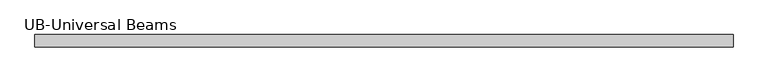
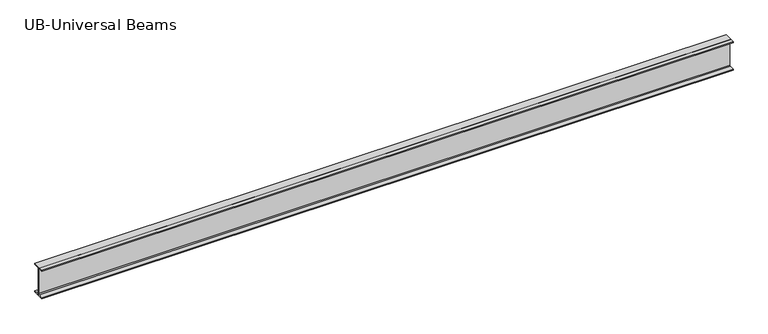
"""IFC4 building model written with IfcOpenShell, lengths in millimetres: beam geometry."""

import ifcopenshell
import ifcopenshell.guid

model = None  # the IFC model being written
_history = None  # IfcOwnerHistory: only IFC2X3 demands one
_inside = {}  # id of a spatial element -> (the spatial element, [elements in it])
_under = {}  # id of a project, library or spatial element -> (it, [spatial elements below it])
_declared = {}  # id of a project -> (the project, [libraries it declares])
_typed = {}  # id of a type object -> (the type object, [elements of that type])
_made_of = {}  # id of a material, layer set ... -> (it, [elements and type objects made of it])


def new_model(schema):
    """Start an empty IFC model of exactly this schema.

    Asked for "IFC4X3", IfcOpenShell would pick the latest addendum, in which some entities
    have other attributes; the version numbers below select the first issue.
    IFC2X3 requires an IfcOwnerHistory on every rooted entity: one is made here for all.
    """
    global model, _history
    if schema == "IFC4X3":
        model = ifcopenshell.file(schema_version=(4, 3, 0, 0))
    else:
        model = ifcopenshell.file(schema=schema)
    _inside.clear()
    _under.clear()
    _declared.clear()
    _typed.clear()
    _made_of.clear()
    _history = None
    if model.schema == "IFC2X3":
        org = make("IfcOrganization", Name="unknown")
        user = make(
            "IfcPersonAndOrganization",
            ThePerson=make("IfcPerson", FamilyName="unknown"),
            TheOrganization=org,
        )
        app = make(
            "IfcApplication",
            ApplicationDeveloper=org,
            Version="unknown",
            ApplicationFullName="unknown",
            ApplicationIdentifier="unknown",
        )
        _history = make(
            "IfcOwnerHistory",
            OwningUser=user,
            OwningApplication=app,
            ChangeAction="ADDED",
            CreationDate=0,
        )
    return model


def make(cls, **values):
    """One entity of the class cls with the attributes given. An attribute that is None is left unset."""
    return model.create_entity(
        cls, **{name: value for name, value in values.items() if value is not None}
    )


def rooted(cls, **values):
    """An entity with a GlobalId (a new one), such as an element, a storey or a relation."""
    return make(cls, GlobalId=ifcopenshell.guid.new(), OwnerHistory=_history, **values)


def si_unit(unit_type, name, prefix=None):
    """IfcSIUnit, for example si_unit("LENGTHUNIT", "METRE", prefix="MILLI")."""
    return make("IfcSIUnit", UnitType=unit_type, Prefix=prefix, Name=name)


def assignment(units):
    """IfcUnitAssignment: the units of a project."""
    return None if units is None else make("IfcUnitAssignment", Units=units)


def point(xyz):
    """IfcCartesianPoint."""
    return None if xyz is None else make("IfcCartesianPoint", Coordinates=xyz)


def direction(xyz):
    """IfcDirection."""
    return None if xyz is None else make("IfcDirection", DirectionRatios=xyz)


def frame(location, z_axis=None, x_axis=None):
    """IfcAxis2Placement3D, a coordinate frame: its origin and axes. An axis left out is left unset."""
    return make(
        "IfcAxis2Placement3D",
        Location=point(location),
        Axis=direction(z_axis),
        RefDirection=direction(x_axis),
    )


def frame_2d(location, x_axis=None):
    """IfcAxis2Placement2D, a coordinate frame in the plane: its origin and x axis."""
    return make(
        "IfcAxis2Placement2D", Location=point(location), RefDirection=direction(x_axis)
    )


def origin():
    """The frame at (0, 0, 0) with its axes left unset."""
    return frame((0.0, 0.0, 0.0))


def place(relative_to, where):
    """IfcLocalPlacement: puts the frame where relative to a parent placement (None: the world)."""
    return make(
        "IfcLocalPlacement", PlacementRelTo=relative_to, RelativePlacement=where
    )


def context(
    kind, dimensions, precision=None, world=None, true_north=None, identifier=None
):
    """IfcGeometricRepresentationContext, for example the 3D "Model" context."""
    return make(
        "IfcGeometricRepresentationContext",
        ContextIdentifier=identifier,
        ContextType=kind,
        CoordinateSpaceDimension=dimensions,
        Precision=precision,
        WorldCoordinateSystem=world,
        TrueNorth=true_north,
    )


def project(units=None, contexts=None):
    """IfcProject with its units and contexts."""
    return rooted(
        "IfcProject",
        Name="project",
        RepresentationContexts=contexts,
        UnitsInContext=assignment(units),
    )


def spatial(cls, under=None, at=None, **own):
    """A site, building, storey or space (cls), placed at a placement, below another one or the project."""
    s = rooted(cls, ObjectPlacement=at, **own)
    if under is not None:
        _under.setdefault(under.id(), (under, []))[1].append(s)
    return s


def polyline(points):
    """IfcPolyline through the points."""
    return make("IfcPolyline", Points=[point(p) for p in points])


def circle_curve(where, radius):
    """IfcCircle in the frame where."""
    return make("IfcCircle", Position=where, Radius=radius)


def trimmed(basis, trim1, trim2, sense, master):
    """IfcTrimmedCurve: the piece of a basis curve between two trims."""
    return make(
        "IfcTrimmedCurve",
        BasisCurve=basis,
        Trim1=trim1,
        Trim2=trim2,
        SenseAgreement=sense,
        MasterRepresentation=master,
    )


def segment(curve, same_sense, transition):
    """IfcCompositeCurveSegment."""
    return make(
        "IfcCompositeCurveSegment",
        Transition=transition,
        SameSense=same_sense,
        ParentCurve=curve,
    )


def composite_curve(segments, self_intersect=None):
    """IfcCompositeCurve: segments joined end to end."""
    return make("IfcCompositeCurve", Segments=segments, SelfIntersect=self_intersect)


def outline(outer, holes=None, kind="AREA"):
    """IfcArbitraryClosedProfileDef: a profile drawn as a closed curve; with holes, ...WithVoids."""
    if holes is None:
        return make("IfcArbitraryClosedProfileDef", ProfileType=kind, OuterCurve=outer)
    return make(
        "IfcArbitraryProfileDefWithVoids",
        ProfileType=kind,
        OuterCurve=outer,
        InnerCurves=holes,
    )


def extrude(swept, where, along, depth):
    """IfcExtrudedAreaSolid: the profile swept, set in the frame where, extruded along a direction by depth."""
    return make(
        "IfcExtrudedAreaSolid",
        SweptArea=swept,
        Position=where,
        ExtrudedDirection=direction(along),
        Depth=depth,
    )


def shape(context_of_items, identifier, shape_type, items):
    """IfcShapeRepresentation: the items that make up one representation, for example the "Body"."""
    return make(
        "IfcShapeRepresentation",
        ContextOfItems=context_of_items,
        RepresentationIdentifier=identifier,
        RepresentationType=shape_type,
        Items=items,
    )


def source(mapping_origin, context_of_items, identifier, shape_type, items):
    """IfcRepresentationMap: a shape defined once, which mapped items show again and again."""
    return make(
        "IfcRepresentationMap",
        MappingOrigin=mapping_origin,
        MappedRepresentation=shape(context_of_items, identifier, shape_type, items),
    )


def transform(
    local_origin,
    x_axis=None,
    y_axis=None,
    z_axis=None,
    scale=None,
    scale2=None,
    scale3=None,
    uniform=True,
):
    """IfcCartesianTransformationOperator3D, or its non-uniform kind. x_axis, y_axis, z_axis: its Axis1, 2, 3."""
    if uniform:
        return make(
            "IfcCartesianTransformationOperator3D",
            Axis1=direction(x_axis),
            Axis2=direction(y_axis),
            LocalOrigin=point(local_origin),
            Scale=scale,
            Axis3=direction(z_axis),
        )
    return make(
        "IfcCartesianTransformationOperator3DnonUniform",
        Axis1=direction(x_axis),
        Axis2=direction(y_axis),
        LocalOrigin=point(local_origin),
        Scale=scale,
        Axis3=direction(z_axis),
        Scale2=scale2,
        Scale3=scale3,
    )


def mapped(mapping_source, mapping_target):
    """IfcMappedItem: shows the shape of a source again, moved by a transform."""
    return make(
        "IfcMappedItem", MappingSource=mapping_source, MappingTarget=mapping_target
    )


def made_of(thing, what):
    """Note that an element or type object is made of a material, layer set ...; save() writes the relation."""
    if what is not None:
        _made_of.setdefault(what.id(), (what, []))[1].append(thing)
    return thing


def element(
    cls,
    number,
    at=None,
    inside=None,
    cuts=None,
    type_object=None,
    material=None,
    context=None,
    identifier="Body",
    shape_type=None,
    held_by="IfcProductDefinitionShape",
    body=None,
    shapes=None,
    **own,
):
    """One element of the class cls, such as IfcWall. Its Tag is "e" and its number.

    at: its placement. inside: the storey or other place that contains it. cuts: it is an
    opening in that element (IfcRelVoidsElement). A single representation is given by context,
    identifier, shape_type and body (its items); several are given by shapes. held_by: the class
    of the entity that holds the representations. save() writes the other relations.
    """
    e = rooted(cls, Tag="e%d" % number, ObjectPlacement=at, **own)
    if body is not None:
        shapes = [shape(context, identifier, shape_type, body)]
    if shapes is not None:
        e.Representation = make(held_by, Representations=shapes)
    if inside is not None:
        _inside.setdefault(inside.id(), (inside, []))[1].append(e)
    if cuts is not None:
        rooted(
            "IfcRelVoidsElement", RelatingBuildingElement=cuts, RelatedOpeningElement=e
        )
    if type_object is not None:
        _typed.setdefault(type_object.id(), (type_object, []))[1].append(e)
    return made_of(e, material)


def aggregate(whole, parts):
    """IfcRelAggregates: a whole, such as a stair, and the parts it consists of."""
    return rooted("IfcRelAggregates", RelatingObject=whole, RelatedObjects=parts)


def save(model, path):
    """Write the relations noted so far, then the file.

    IfcRelAggregates (storeys below a building ...), IfcRelContainedInSpatialStructure (elements
    in a storey), IfcRelDefinesByType, IfcRelAssociatesMaterial and IfcRelDeclares: one each for
    every whole, place, type object, material and project.
    """
    for whole, parts in _under.values():
        aggregate(whole, parts)
    for where, things in _inside.values():
        rooted(
            "IfcRelContainedInSpatialStructure",
            RelatedElements=things,
            RelatingStructure=where,
        )
    for kind, things in _typed.values():
        rooted("IfcRelDefinesByType", RelatedObjects=things, RelatingType=kind)
    for what, things in _made_of.values():
        rooted("IfcRelAssociatesMaterial", RelatedObjects=things, RelatingMaterial=what)
    for by, libraries in _declared.values():
        rooted("IfcRelDeclares", RelatingContext=by, RelatedDefinitions=libraries)
    model.write(path)


def ub_universal_beams_8d2b0bf5(model_context):
    return source(origin(), model_context, "Body", "SweptSolid", [
        extrude(outline(composite_curve([segment(polyline([(61.7, -141.5), (61.7, -152.2), (-61.7, -152.2), (-61.7, -141.5), (-12.45, -141.5)]), True, "CONTINUOUS"), segment(trimmed(circle_curve(frame_2d((-12.45, -132.6)), 8.9), [point((-12.45, -141.5))], [point((-3.55, -132.6))], True, "CARTESIAN"), True, "CONTINUOUS"), segment(polyline([(-3.55, -132.6), (-3.55, 132.6)]), True, "CONTINUOUS"), segment(trimmed(circle_curve(frame_2d((-12.45, 132.6)), 8.9), [point((-3.55, 132.6))], [point((-12.45, 141.5))], True, "CARTESIAN"), True, "CONTINUOUS"), segment(polyline([(-12.45, 141.5), (-61.7, 141.5), (-61.7, 152.2), (61.7, 152.2), (61.7, 141.5), (12.45, 141.5)]), True, "CONTINUOUS"), segment(trimmed(circle_curve(frame_2d((12.45, 132.6)), 8.9), [point((12.45, 141.5))], [point((3.55, 132.6))], True, "CARTESIAN"), True, "CONTINUOUS"), segment(polyline([(3.55, 132.6), (3.55, -132.6)]), True, "CONTINUOUS"), segment(trimmed(circle_curve(frame_2d((12.45, -132.6)), 8.9), [point((3.55, -132.6))], [point((12.45, -141.5))], True, "CARTESIAN"), True, "CONTINUOUS"), segment(polyline([(12.45, -141.5), (61.7, -141.5)]), True, "CONTINUOUS")], self_intersect=False)), frame((-3522.9, 0.0, 0.0), z_axis=(1.0, 0.0, 0.0), x_axis=(0.0, 1.0, 0.0)), (0.0, 0.0, 1.0), 7022.7),
    ])


if __name__ == "__main__":
    model = new_model("IFC4")
    model_context = context("Model", 3, world=origin())
    ifc_project = project(units=[si_unit("LENGTHUNIT", "METRE", prefix="MILLI")], contexts=[model_context])
    site = spatial("IfcSite", under=ifc_project)
    building = spatial("IfcBuilding", under=site)
    placement = place(None, origin())
    ub_universal_beams_shape = ub_universal_beams_8d2b0bf5(model_context)
    element("IfcBeam", 1, ObjectType="UB-Universal Beams : UB 12\" x 5\" x 1 1/2\"", at=placement, inside=building, context=model_context, shape_type="MappedRepresentation", body=[
        mapped(ub_universal_beams_shape, transform((0.0, 0.0, 0.0), x_axis=(1.0, 0.0, 0.0), y_axis=(0.0, 1.0, 0.0), z_axis=(0.0, 0.0, 1.0))),
    ])
    save(model, "model.ifc")
